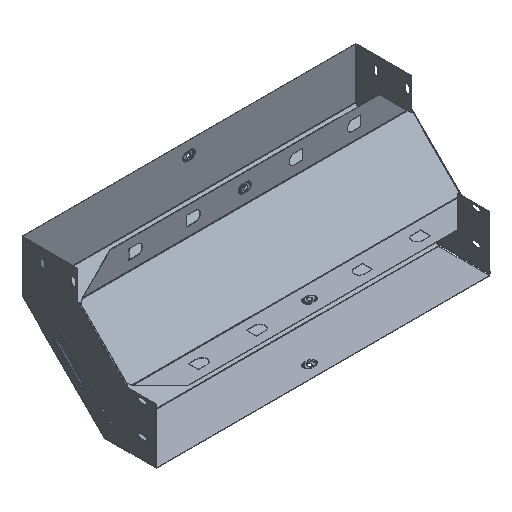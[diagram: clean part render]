
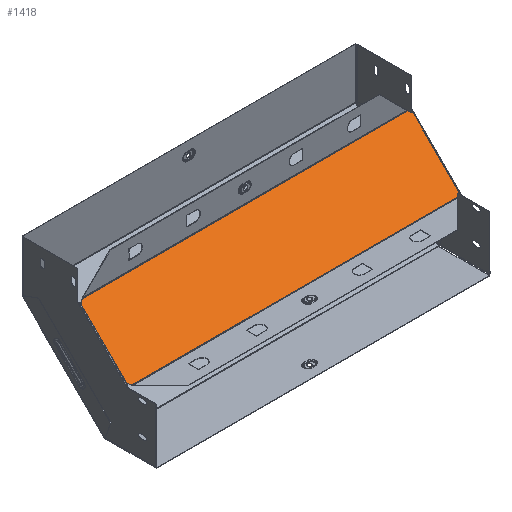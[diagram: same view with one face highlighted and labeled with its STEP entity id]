
A CAD part, isometric view. The second image highlights one B-rep face of the part: STEP entity #1418.
In plain terms, the highlighted planar face has unit normal (0, -0.707, 0.707).
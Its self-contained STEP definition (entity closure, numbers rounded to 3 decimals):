
#66 = CARTESIAN_POINT ( 'NONE',  ( -241.546, 105.512, 55.512 ) ) ;
#89 = ORIENTED_EDGE ( 'NONE', *, *, #1807, .F. ) ;
#273 = VERTEX_POINT ( 'NONE', #8592 ) ;
#318 = CARTESIAN_POINT ( 'NONE',  ( 300.299, 69.208, 19.208 ) ) ;
#327 = EDGE_CURVE ( 'NONE', #649, #6875, #6331, .T. ) ;
#433 = LINE ( 'NONE', #3260, #5714 ) ;
#444 = DIRECTION ( 'NONE',  ( -1., 0., 0. ) ) ;
#559 = CARTESIAN_POINT ( 'NONE',  ( -300.299, 69.208, 19.208 ) ) ;
#649 = VERTEX_POINT ( 'NONE', #6811 ) ;
#713 = ORIENTED_EDGE ( 'NONE', *, *, #3281, .T. ) ;
#733 = ORIENTED_EDGE ( 'NONE', *, *, #7766, .T. ) ;
#816 = VERTEX_POINT ( 'NONE', #4816 ) ;
#862 = VECTOR ( 'NONE', #4593, 1000. ) ;
#941 = EDGE_LOOP ( 'NONE', ( #5437, #5631, #733, #6244, #4538, #5098, #3218, #4881, #7144, #713, #4909, #89 ) ) ;
#1024 = DIRECTION ( 'NONE',  ( 0.707, -0.5, -0.5 ) ) ;
#1415 = VERTEX_POINT ( 'NONE', #8985 ) ;
#1418 = ADVANCED_FACE ( 'NONE', ( #3948 ), #6127, .F. ) ;
#1676 = LINE ( 'NONE', #1716, #5269 ) ;
#1716 = CARTESIAN_POINT ( 'NONE',  ( 300.299, -19.208, -69.208 ) ) ;
#1807 = EDGE_CURVE ( 'NONE', #816, #5031, #2164, .T. ) ;
#1818 = VECTOR ( 'NONE', #2310, 1000. ) ;
#1881 = EDGE_CURVE ( 'NONE', #816, #7717, #2784, .T. ) ;
#1894 = LINE ( 'NONE', #3402, #3354 ) ;
#1974 = EDGE_CURVE ( 'NONE', #7717, #5278, #5807, .T. ) ;
#1987 = LINE ( 'NONE', #6287, #7735 ) ;
#2164 = LINE ( 'NONE', #2364, #1818 ) ;
#2211 = CARTESIAN_POINT ( 'NONE',  ( 241.546, -55.512, -105.512 ) ) ;
#2284 = DIRECTION ( 'NONE',  ( -0.707, -0.5, -0.5 ) ) ;
#2310 = DIRECTION ( 'NONE',  ( 0., -0.707, -0.707 ) ) ;
#2364 = CARTESIAN_POINT ( 'NONE',  ( 298.2, 70., 20. ) ) ;
#2414 = DIRECTION ( 'NONE',  ( 0., -0.707, -0.707 ) ) ;
#2575 = VECTOR ( 'NONE', #2284, 1000. ) ;
#2784 = LINE ( 'NONE', #318, #862 ) ;
#2939 = CARTESIAN_POINT ( 'NONE',  ( -292.181, 69.707, 19.707 ) ) ;
#2965 = DIRECTION ( 'NONE',  ( 0.707, 0.5, 0.5 ) ) ;
#3194 = DIRECTION ( 'NONE',  ( 0.707, 0.5, 0.5 ) ) ;
#3218 = ORIENTED_EDGE ( 'NONE', *, *, #4076, .T. ) ;
#3260 = CARTESIAN_POINT ( 'NONE',  ( -300.299, -19.208, -69.208 ) ) ;
#3281 = EDGE_CURVE ( 'NONE', #7583, #1415, #9140, .T. ) ;
#3344 = VECTOR ( 'NONE', #4254, 1000. ) ;
#3354 = VECTOR ( 'NONE', #8328, 1000. ) ;
#3402 = CARTESIAN_POINT ( 'NONE',  ( 298.2, -19.707, -69.707 ) ) ;
#3821 = VERTEX_POINT ( 'NONE', #8665 ) ;
#3948 = FACE_OUTER_BOUND ( 'NONE', #941, .T. ) ;
#3949 = EDGE_CURVE ( 'NONE', #1415, #5031, #1676, .T. ) ;
#4076 = EDGE_CURVE ( 'NONE', #6101, #273, #433, .T. ) ;
#4155 = CARTESIAN_POINT ( 'NONE',  ( -241.546, -55.512, -105.512 ) ) ;
#4177 = EDGE_CURVE ( 'NONE', #7583, #3821, #1894, .T. ) ;
#4254 = DIRECTION ( 'NONE',  ( 0.707, -0.5, -0.5 ) ) ;
#4291 = EDGE_CURVE ( 'NONE', #273, #3821, #5369, .T. ) ;
#4402 = VERTEX_POINT ( 'NONE', #2939 ) ;
#4457 = EDGE_CURVE ( 'NONE', #4402, #649, #8191, .T. ) ;
#4538 = ORIENTED_EDGE ( 'NONE', *, *, #327, .T. ) ;
#4585 = CARTESIAN_POINT ( 'NONE',  ( 292.181, -19.707, -69.707 ) ) ;
#4593 = DIRECTION ( 'NONE',  ( -0.707, -0.5, -0.5 ) ) ;
#4618 = CARTESIAN_POINT ( 'NONE',  ( -298.2, -17.724, -67.724 ) ) ;
#4660 = DIRECTION ( 'NONE',  ( 0., 0.707, 0.707 ) ) ;
#4767 = DIRECTION ( 'NONE',  ( -0.707, 0.5, 0.5 ) ) ;
#4796 = CARTESIAN_POINT ( 'NONE',  ( -298.2, 67.724, 17.724 ) ) ;
#4816 = CARTESIAN_POINT ( 'NONE',  ( 298.2, 67.724, 17.724 ) ) ;
#4881 = ORIENTED_EDGE ( 'NONE', *, *, #4291, .T. ) ;
#4909 = ORIENTED_EDGE ( 'NONE', *, *, #3949, .T. ) ;
#4998 = CARTESIAN_POINT ( 'NONE',  ( 298.2, -17.724, -67.724 ) ) ;
#5031 = VERTEX_POINT ( 'NONE', #4998 ) ;
#5098 = ORIENTED_EDGE ( 'NONE', *, *, #7209, .T. ) ;
#5205 = CARTESIAN_POINT ( 'NONE',  ( -298.2, 70., 20. ) ) ;
#5269 = VECTOR ( 'NONE', #1024, 1000. ) ;
#5278 = VERTEX_POINT ( 'NONE', #6940 ) ;
#5369 = LINE ( 'NONE', #4155, #3344 ) ;
#5437 = ORIENTED_EDGE ( 'NONE', *, *, #1881, .T. ) ;
#5555 = DIRECTION ( 'NONE',  ( -0.707, 0.5, 0.5 ) ) ;
#5588 = VECTOR ( 'NONE', #2414, 1000. ) ;
#5631 = ORIENTED_EDGE ( 'NONE', *, *, #1974, .T. ) ;
#5696 = VECTOR ( 'NONE', #4767, 1000. ) ;
#5714 = VECTOR ( 'NONE', #3194, 1000. ) ;
#5807 = LINE ( 'NONE', #6246, #5696 ) ;
#6019 = CARTESIAN_POINT ( 'NONE',  ( 298.2, 70., 20. ) ) ;
#6101 = VERTEX_POINT ( 'NONE', #4618 ) ;
#6127 = PLANE ( 'NONE',  #6978 ) ;
#6244 = ORIENTED_EDGE ( 'NONE', *, *, #4457, .T. ) ;
#6246 = CARTESIAN_POINT ( 'NONE',  ( 241.546, 105.512, 55.512 ) ) ;
#6287 = CARTESIAN_POINT ( 'NONE',  ( 298.2, 69.707, 19.707 ) ) ;
#6331 = LINE ( 'NONE', #559, #8712 ) ;
#6811 = CARTESIAN_POINT ( 'NONE',  ( -296.592, 66.588, 16.588 ) ) ;
#6875 = VERTEX_POINT ( 'NONE', #4796 ) ;
#6940 = CARTESIAN_POINT ( 'NONE',  ( 292.181, 69.707, 19.707 ) ) ;
#6978 = AXIS2_PLACEMENT_3D ( 'NONE', #6019, #8279, #4660 ) ;
#7144 = ORIENTED_EDGE ( 'NONE', *, *, #4177, .F. ) ;
#7209 = EDGE_CURVE ( 'NONE', #6875, #6101, #8188, .T. ) ;
#7318 = VECTOR ( 'NONE', #2965, 1000. ) ;
#7583 = VERTEX_POINT ( 'NONE', #4585 ) ;
#7717 = VERTEX_POINT ( 'NONE', #8033 ) ;
#7735 = VECTOR ( 'NONE', #444, 1000. ) ;
#7766 = EDGE_CURVE ( 'NONE', #5278, #4402, #1987, .T. ) ;
#8033 = CARTESIAN_POINT ( 'NONE',  ( 296.592, 66.588, 16.588 ) ) ;
#8188 = LINE ( 'NONE', #5205, #5588 ) ;
#8191 = LINE ( 'NONE', #66, #2575 ) ;
#8279 = DIRECTION ( 'NONE',  ( 0., 0.707, -0.707 ) ) ;
#8328 = DIRECTION ( 'NONE',  ( -1., 0., 0. ) ) ;
#8592 = CARTESIAN_POINT ( 'NONE',  ( -296.592, -16.588, -66.588 ) ) ;
#8665 = CARTESIAN_POINT ( 'NONE',  ( -292.181, -19.707, -69.707 ) ) ;
#8712 = VECTOR ( 'NONE', #5555, 1000. ) ;
#8985 = CARTESIAN_POINT ( 'NONE',  ( 296.592, -16.588, -66.588 ) ) ;
#9140 = LINE ( 'NONE', #2211, #7318 ) ;
